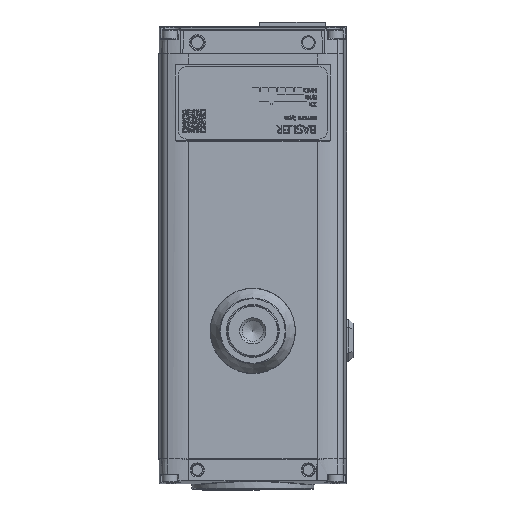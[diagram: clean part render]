
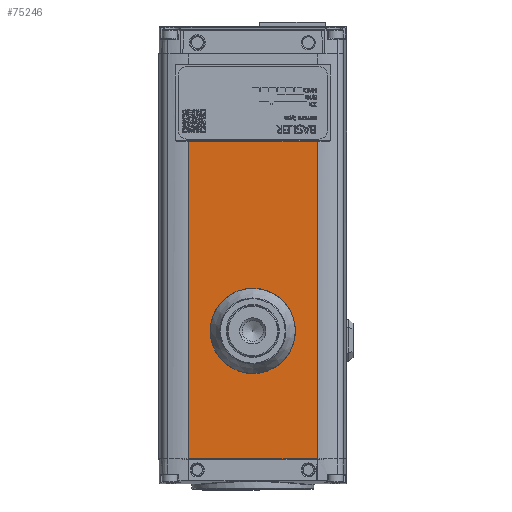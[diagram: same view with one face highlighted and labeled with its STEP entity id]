
A CAD part, front view. The second image highlights one B-rep face of the part: STEP entity #75246.
In plain terms, the highlighted planar face has unit normal (0, -1, 0).
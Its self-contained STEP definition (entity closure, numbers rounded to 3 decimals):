
#6782=CARTESIAN_POINT('',(15.11,-14.5,7.3));
#6783=VERTEX_POINT('',#6782);
#6791=CARTESIAN_POINT('',(-15.11,-14.5,7.3));
#6792=VERTEX_POINT('',#6791);
#6793=CARTESIAN_POINT('',(-15.11,-14.5,7.3));
#6794=DIRECTION('',(1.0,0.,0.));
#6795=VECTOR('',#6794,30.22);
#6796=LINE('',#6793,#6795);
#6797=EDGE_CURVE('',#6792,#6783,#6796,.T.);
#75205=CARTESIAN_POINT('',(0.,-14.5,27.3));
#75206=DIRECTION('',(0.0,1.0,0.0));
#75207=DIRECTION('',(0.,0.0,1.0));
#75208=AXIS2_PLACEMENT_3D('',#75205,#75206,#75207);
#75209=PLANE('',#75208);
#75210=ORIENTED_EDGE('',*,*,#6797,.T.);
#75211=CARTESIAN_POINT('',(15.11,-14.5,81.8));
#75212=VERTEX_POINT('',#75211);
#75213=CARTESIAN_POINT('',(15.11,-14.5,81.8));
#75214=DIRECTION('',(0.,0.,-1.0));
#75215=VECTOR('',#75214,74.5);
#75216=LINE('',#75213,#75215);
#75217=EDGE_CURVE('',#75212,#6783,#75216,.T.);
#75218=ORIENTED_EDGE('',*,*,#75217,.F.);
#75219=CARTESIAN_POINT('',(-15.11,-14.5,81.8));
#75220=VERTEX_POINT('',#75219);
#75221=CARTESIAN_POINT('',(15.11,-14.5,81.8));
#75222=DIRECTION('',(-1.0,0.,0.));
#75223=VECTOR('',#75222,30.22);
#75224=LINE('',#75221,#75223);
#75225=EDGE_CURVE('',#75212,#75220,#75224,.T.);
#75226=ORIENTED_EDGE('',*,*,#75225,.T.);
#75227=CARTESIAN_POINT('',(-15.11,-14.5,7.3));
#75228=DIRECTION('',(0.,0.,1.0));
#75229=VECTOR('',#75228,74.5);
#75230=LINE('',#75227,#75229);
#75231=EDGE_CURVE('',#6792,#75220,#75230,.T.);
#75232=ORIENTED_EDGE('',*,*,#75231,.F.);
#75233=EDGE_LOOP('',(#75210,#75218,#75226,#75232));
#75234=FACE_OUTER_BOUND('',#75233,.T.);
#75235=CARTESIAN_POINT('',(0.,-14.5,27.3));
#75236=VERTEX_POINT('',#75235);
#75237=CARTESIAN_POINT('',(0.,-14.5,37.3));
#75238=DIRECTION('',(0.0,1.0,0.0));
#75239=DIRECTION('',(0.0,0.0,1.0));
#75240=AXIS2_PLACEMENT_3D('',#75237,#75238,#75239);
#75241=CIRCLE('',#75240,10.0);
#75242=EDGE_CURVE('',#75236,#75236,#75241,.T.);
#75243=ORIENTED_EDGE('',*,*,#75242,.T.);
#75244=EDGE_LOOP('',(#75243));
#75245=FACE_BOUND('',#75244,.T.);
#75246=ADVANCED_FACE('',(#75234,#75245),#75209,.F.);
